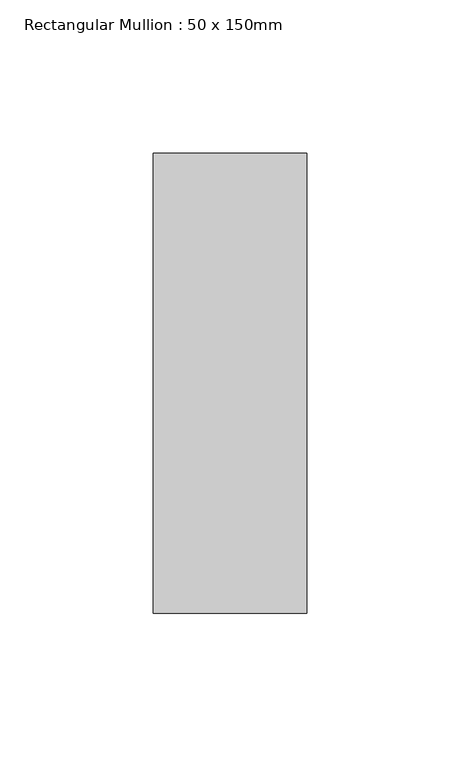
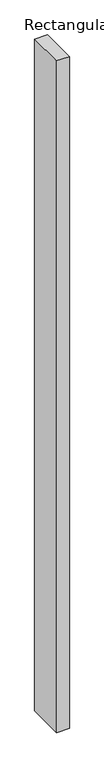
"""IFC4 building model written with IfcOpenShell, lengths in millimetres: member geometry, Rectangular Mullion : 50 x 150mm."""

from ifc_helpers import new_model, si_unit, frame, origin, place, context, project, spatial, polyline, outline, extrude, source, transform, mapped, element, save


def rectangular_mullion_50_x_150mm_d11e3bb4(model_context):
    return source(origin(), model_context, "Body", "SweptSolid", [
        extrude(outline(polyline([(25.0, 75.0), (25.0, -75.0), (-25.0, -75.0), (-25.0, 75.0), (25.0, 75.0)])), frame((0.0, 0.0, -2800.0), z_axis=(0.0, 0.0, 1.0), x_axis=(1.0, 0.0, 0.0)), (0.0, 0.0, 1.0), 2800.0),
    ])


if __name__ == "__main__":
    model = new_model("IFC4")
    model_context = context("Model", 3, world=origin())
    ifc_project = project(units=[si_unit("LENGTHUNIT", "METRE", prefix="MILLI")], contexts=[model_context])
    site = spatial("IfcSite", under=ifc_project)
    building = spatial("IfcBuilding", under=site)
    placement = place(None, origin())
    rectangular_mullion_50_x_150mm_shape = rectangular_mullion_50_x_150mm_d11e3bb4(model_context)
    element("IfcMember", 1, ObjectType="Rectangular Mullion : 50 x 150mm", at=placement, inside=building, context=model_context, shape_type="MappedRepresentation", body=[
        mapped(rectangular_mullion_50_x_150mm_shape, transform((0.0, 0.0, 0.0), x_axis=(1.0, 0.0, 0.0), y_axis=(0.0, 1.0, 0.0), z_axis=(0.0, 0.0, 1.0))),
    ])
    save(model, "model.ifc")
